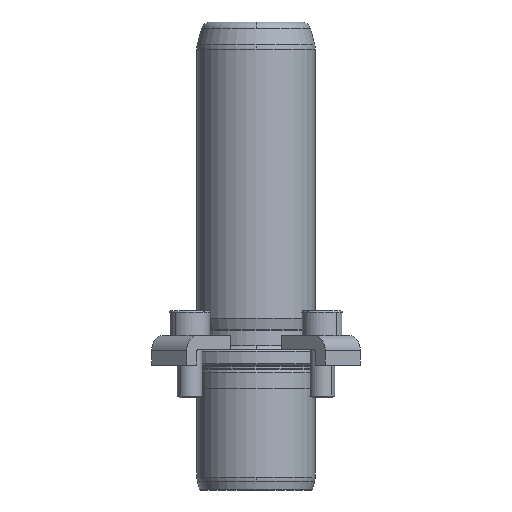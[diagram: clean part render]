
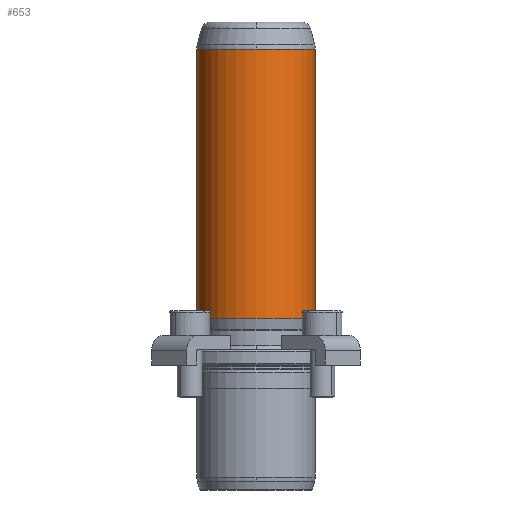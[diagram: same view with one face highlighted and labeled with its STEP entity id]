
A CAD part, front view. The second image highlights one B-rep face of the part: STEP entity #653.
In plain terms, the highlighted cylindrical face has radius 19 mm (diameter 38 mm), a partial arc.
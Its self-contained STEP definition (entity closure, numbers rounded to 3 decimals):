
#566=CARTESIAN_POINT('',(0.0,-19.,101.342));
#567=VERTEX_POINT('',#566);
#594=CARTESIAN_POINT('',(-19.0,0.,101.342));
#595=VERTEX_POINT('',#594);
#603=CARTESIAN_POINT('',(0.0,0.,101.342));
#604=DIRECTION('',(0.0,0.0,1.0));
#605=DIRECTION('',(1.0,0.0,0.0));
#606=AXIS2_PLACEMENT_3D('',#603,#604,#605);
#607=CIRCLE('',#606,19.);
#608=EDGE_CURVE('',#595,#567,#607,.T.);
#613=CARTESIAN_POINT('',(0.0,0.,58.171));
#614=DIRECTION('',(0.0,0.,1.0));
#615=DIRECTION('',(1.0,0.0,0.0));
#616=AXIS2_PLACEMENT_3D('',#613,#614,#615);
#617=CYLINDRICAL_SURFACE('',#616,19.0);
#618=CARTESIAN_POINT('',(19.,0.,101.342));
#619=VERTEX_POINT('',#618);
#620=CARTESIAN_POINT('',(19.0,0.,15.0));
#621=VERTEX_POINT('',#620);
#622=CARTESIAN_POINT('',(19.,0.,101.342));
#623=DIRECTION('',(0.0,0.0,-1.0));
#624=VECTOR('',#623,86.342);
#625=LINE('',#622,#624);
#626=EDGE_CURVE('',#619,#621,#625,.T.);
#627=ORIENTED_EDGE('',*,*,#626,.F.);
#628=CARTESIAN_POINT('',(0.0,0.,101.342));
#629=DIRECTION('',(0.0,0.0,1.0));
#630=DIRECTION('',(1.0,0.0,0.0));
#631=AXIS2_PLACEMENT_3D('',#628,#629,#630);
#632=CIRCLE('',#631,19.);
#633=EDGE_CURVE('',#567,#619,#632,.T.);
#634=ORIENTED_EDGE('',*,*,#633,.F.);
#635=ORIENTED_EDGE('',*,*,#608,.F.);
#636=CARTESIAN_POINT('',(-19.0,0.,15.0));
#637=VERTEX_POINT('',#636);
#638=CARTESIAN_POINT('',(-19.0,0.,101.342));
#639=DIRECTION('',(0.0,0.0,-1.0));
#640=VECTOR('',#639,86.342);
#641=LINE('',#638,#640);
#642=EDGE_CURVE('',#595,#637,#641,.T.);
#643=ORIENTED_EDGE('',*,*,#642,.T.);
#644=CARTESIAN_POINT('',(0.0,0.,15.0));
#645=DIRECTION('',(0.0,0.0,1.0));
#646=DIRECTION('',(1.0,0.0,0.0));
#647=AXIS2_PLACEMENT_3D('',#644,#645,#646);
#648=CIRCLE('',#647,19.0);
#649=EDGE_CURVE('',#637,#621,#648,.T.);
#650=ORIENTED_EDGE('',*,*,#649,.T.);
#651=EDGE_LOOP('',(#627,#634,#635,#643,#650));
#652=FACE_OUTER_BOUND('',#651,.T.);
#653=ADVANCED_FACE('',(#652),#617,.T.);
